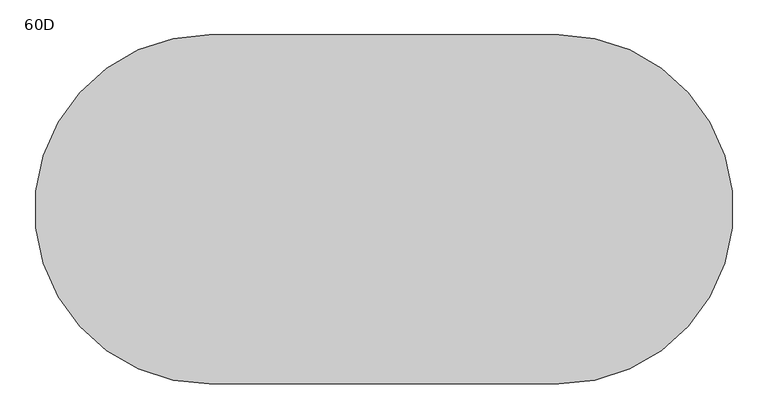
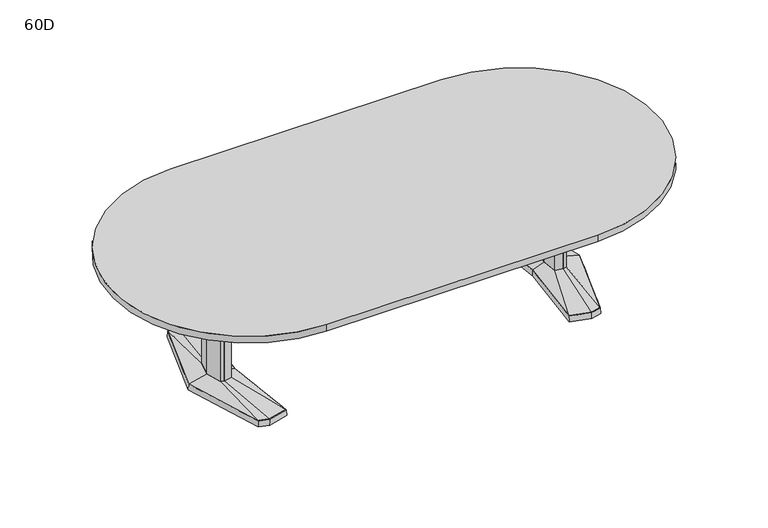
"""IFC4 building model written with IfcOpenShell, lengths in millimetres: furniture geometry, Coalesse_AM_Table_Conference_ETable2_Racetrack_10ft_AluminiumBase : 60D."""

from ifc_helpers import new_model, si_unit, point, frame, frame_2d, origin, place, context, project, spatial, polyline, circle_curve, trimmed, segment, composite_curve, outline, extrude, faceted_brep, source, transform, mapped, element, save
from ifc_brep_helpers import plane_surface, spline_surface, advanced_brep


def furniture_60d_35aef25b(model_context):
    return source(origin(), model_context, "Body", "SolidModel", [
        faceted_brep([(905.8306835, 455.5848221, 38.1), (796.2531277, 426.2263816, 38.1), (837.4163717, 0.0, 38.1), (796.2531277, -426.2263816, 38.1), (905.8306835, -455.5848221, 38.1), (961.9570396, -440.5478297, 38.1), (1099.2684269, 0.0, 38.1), (961.9570396, 440.5478297, 38.1), (905.8306754, 457.2283104, 3.175), (963.2124472, 441.8549756, 3.175), (1100.93125, 0.0, 3.175), (963.2124472, -441.8549756, 3.175), (905.8306754, -457.2283104, 3.175), (794.54375, -427.4118891, 3.175), (835.8214856, 0.0, 3.175), (794.54375, 427.4118891, 3.175), (909.420115, 428.3273875, 3.175), (804.3718228, 402.1057253, 3.175), (812.490518, 377.985069, 3.175), (913.0095466, 401.0699529, 3.175), (963.5691725, 387.524361, 3.175), (962.7631061, 414.0360954, 3.175), (909.420115, -428.3273875, 3.175), (962.7631061, -414.0360954, 3.175), (963.5691725, -387.524361, 3.175), (913.0095466, -401.0699529, 3.175), (812.490518, -377.985069, 3.175), (804.3718228, -402.1057253, 3.175), (1036.0153621, 0.0, 3.175), (1003.7459611, 120.4193755, 3.175), (955.0987222, 133.471665, 3.175), (875.2180526, 119.4176561, 3.175), (864.0868466, 0.0, 3.175), (875.2180526, -119.4176561, 3.175), (955.0987222, -133.471665, 3.175), (1003.7459611, -120.4193755, 3.175), (909.420115, 428.3273875, 0.0), (962.7631061, 414.0360954, 0.0), (963.5691725, 387.524361, 0.0), (913.0095466, 401.0699529, 0.0), (812.490518, 377.985069, 0.0), (804.3718228, 402.1057253, 0.0), (909.420115, -428.3273875, 0.0), (804.3718228, -402.1057253, 0.0), (812.490518, -377.985069, 0.0), (913.0095466, -401.0699529, 0.0), (963.5691725, -387.524361, 0.0), (962.7631061, -414.0360954, 0.0), (1036.0153621, 0.0, 0.0), (1003.7459611, -120.4193755, 0.0), (955.0987222, -133.471665, 0.0), (875.2180526, -119.4176561, 0.0), (864.0868466, 0.0, 0.0), (875.2180526, 119.4176561, 0.0), (955.0987222, 133.471665, 0.0), (1003.7459611, 120.4193755, 0.0)], [[[0, 1, 2, 3, 4, 5, 6, 7]], [[8, 9, 10, 11, 12, 13, 14, 15], [16, 17, 18, 19, 20, 21], [22, 23, 24, 25, 26, 27], [28, 29, 30, 31, 32, 33, 34, 35]], [[7, 9, 8, 0]], [[6, 10, 9, 7]], [[5, 11, 10, 6]], [[4, 12, 11, 5]], [[3, 13, 12, 4]], [[2, 14, 13, 3]], [[1, 15, 14, 2]], [[0, 8, 15, 1]], [[36, 37, 38, 39, 40, 41]], [[42, 43, 44, 45, 46, 47]], [[48, 49, 50, 51, 52, 53, 54, 55]], [[36, 16, 21, 37]], [[37, 21, 20, 38]], [[38, 20, 19, 39]], [[39, 19, 18, 40]], [[40, 18, 17, 41]], [[41, 17, 16, 36]], [[42, 22, 27, 43]], [[43, 27, 26, 44]], [[44, 26, 25, 45]], [[45, 25, 24, 46]], [[46, 24, 23, 47]], [[47, 23, 22, 42]], [[48, 28, 35, 49]], [[49, 35, 34, 50]], [[50, 34, 33, 51]], [[51, 33, 32, 52]], [[52, 32, 31, 53]], [[53, 31, 30, 54]], [[54, 30, 29, 55]], [[55, 29, 28, 48]]]),
        faceted_brep([(996.5710836, 0.0, 698.5), (972.6358546, 89.3188359, 698.5), (955.7824984, 93.8406728, 698.5), (953.3826511, 94.4845635, 698.5), (910.455146, 86.9320037, 698.5), (902.3520056, 0.0, 698.5), (910.455146, -86.9320037, 698.5), (953.3826511, -94.4845635, 698.5), (955.7824984, -93.8406728, 698.5), (972.6358546, -89.3188359, 698.5), (996.5710836, 0.0, 63.5), (972.6358546, -89.3188359, 63.5), (955.7824984, -93.8406728, 63.5), (953.3826511, -94.4845635, 63.5), (910.455146, -86.9320037, 63.5), (902.3520056, 0.0, 63.5), (910.455146, 86.9320037, 63.5), (953.3826511, 94.4845635, 63.5), (955.7824984, 93.8406728, 63.5), (972.6358546, 89.3188359, 63.5)], [[[0, 1, 2, 3, 4, 5, 6, 7, 8, 9]], [[10, 11, 12, 13, 14, 15, 16, 17, 18, 19]], [[9, 11, 10, 0]], [[8, 12, 11, 9]], [[7, 13, 12, 8]], [[6, 14, 13, 7]], [[5, 15, 14, 6]], [[4, 16, 15, 5]], [[3, 17, 16, 4]], [[2, 18, 17, 3]], [[1, 19, 18, 2]], [[0, 10, 19, 1]]]),
        advanced_brep(
        [(953.3826511, 94.4845635, 63.5), (910.455146, 86.9320037, 63.5), (902.3520056, 0.0, 63.5), (910.455146, -86.9320037, 63.5), (953.3826511, -94.4845635, 63.5), (972.6358546, -89.3188359, 63.5), (996.5710836, 0.0, 63.5), (972.6358546, 89.3188359, 63.5), (905.8306835, 455.5848221, 38.1), (961.9570396, 440.5478297, 38.1), (1099.2684269, 0.0, 38.1), (961.9570396, -440.5478297, 38.1), (905.8306835, -455.5848221, 38.1), (796.2531277, -426.2263816, 38.1), (837.4163717, 0.0, 38.1), (796.2531277, 426.2263816, 38.1)],
        [
            (0, 1),
            (1, 2),
            (2, 3),
            (3, 4),
            (4, 5),
            (5, 6),
            (6, 7),
            (7, 0),
            (8, 9),
            (9, 10),
            (10, 11),
            (11, 12),
            (12, 13),
            (13, 14),
            (14, 15),
            (15, 8),
            (8, 0),
            (7, 9),
            (6, 10),
            (5, 11),
            (4, 12),
            (3, 13),
            (2, 14),
            (1, 15),
        ],
        [
            plane_surface(frame((946.4837991, 0.0, 63.5), z_axis=(0.0, 0.0, 1.0), x_axis=(-0.25884244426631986, -0.9659195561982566, 0.0))),
            plane_surface(frame((908.0958125, 0.0, 38.1), z_axis=(0.0, 0.0, -1.0), x_axis=(-0.25884244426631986, -0.9659195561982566, 0.0))),
            spline_surface(1, 1, [[(905.8306835, 455.5848221, 38.1), (961.9570396, 440.5478297, 38.1)], [(953.3826511, 94.4845635, 63.5), (972.6358546, 89.3188359, 63.5)]], [2, 2], [2, 2], [0.0, 1.0], [0.0, 1.0]),
            spline_surface(1, 1, [[(961.9570396, 440.5478297, 38.1), (1099.2684269, 0.0, 38.1)], [(972.6358546, 89.3188359, 63.5), (996.5710836, 0.0, 63.5)]], [2, 2], [2, 2], [0.0, 1.0], [0.0, 1.0]),
            spline_surface(1, 1, [[(1099.2684269, 0.0, 38.1), (961.9570396, -440.5478297, 38.1)], [(996.5710836, 0.0, 63.5), (972.6358546, -89.3188359, 63.5)]], [2, 2], [2, 2], [0.0, 1.0], [0.0, 1.0]),
            spline_surface(1, 1, [[(961.9570396, -440.5478297, 38.1), (905.8306835, -455.5848221, 38.1)], [(972.6358546, -89.3188359, 63.5), (953.3826511, -94.4845635, 63.5)]], [2, 2], [2, 2], [0.0, 1.0], [0.0, 1.0]),
            spline_surface(1, 1, [[(905.8306835, -455.5848221, 38.1), (796.2531277, -426.2263816, 38.1)], [(953.3826511, -94.4845635, 63.5), (910.455146, -86.9320037, 63.5)]], [2, 2], [2, 2], [0.0, 1.0], [0.0, 1.0]),
            spline_surface(1, 1, [[(796.2531277, -426.2263816, 38.1), (837.4163717, 0.0, 38.1)], [(910.455146, -86.9320037, 63.5), (902.3520056, 0.0, 63.5)]], [2, 2], [2, 2], [0.0, 1.0], [0.0, 1.0]),
            spline_surface(1, 1, [[(837.4163717, 0.0, 38.1), (796.2531277, 426.2263816, 38.1)], [(902.3520056, 0.0, 63.5), (910.455146, 86.9320037, 63.5)]], [2, 2], [2, 2], [0.0, 1.0], [0.0, 1.0]),
            spline_surface(1, 1, [[(796.2531277, 426.2263816, 38.1), (905.8306835, 455.5848221, 38.1)], [(910.455146, 86.9320037, 63.5), (953.3826511, 94.4845635, 63.5)]], [2, 2], [2, 2], [0.0, 1.0], [0.0, 1.0]),
        ],
        [
            (0, [[1, 2, 3, 4, 5, 6, 7, 8]]),
            (1, [[9, 10, 11, 12, 13, 14, 15, 16]]),
            (2, [[17, -8, 18, -9]]),
            (3, [[-18, -7, 19, -10]]),
            (4, [[-19, -6, 20, -11]]),
            (5, [[-20, -5, 21, -12]]),
            (6, [[-21, -4, 22, -13]]),
            (7, [[-22, -3, 23, -14]]),
            (8, [[-23, -2, 24, -15]]),
            (9, [[-24, -1, -17, -16]]),
        ],
    ),
        faceted_brep([(-905.8306835, 455.5848221, 38.1), (-961.9570396, 440.5478297, 38.1), (-1099.2684269, 0.0, 38.1), (-961.9570396, -440.5478297, 38.1), (-905.8306835, -455.5848221, 38.1), (-796.2531277, -426.2263816, 38.1), (-837.4163717, 0.0, 38.1), (-796.2531277, 426.2263816, 38.1), (-905.8306754, 457.2283104, 3.175), (-794.54375, 427.4118891, 3.175), (-835.8214856, 0.0, 3.175), (-794.54375, -427.4118891, 3.175), (-905.8306754, -457.2283104, 3.175), (-963.2124472, -441.8549756, 3.175), (-1100.93125, 0.0, 3.175), (-963.2124472, 441.8549756, 3.175), (-909.420115, 428.3273875, 3.175), (-962.7631061, 414.0360954, 3.175), (-963.5691725, 387.524361, 3.175), (-913.0095466, 401.0699529, 3.175), (-812.490518, 377.985069, 3.175), (-804.3718228, 402.1057253, 3.175), (-909.420115, -428.3273875, 3.175), (-804.3718228, -402.1057253, 3.175), (-812.490518, -377.985069, 3.175), (-913.0095466, -401.0699529, 3.175), (-963.5691725, -387.524361, 3.175), (-962.7631061, -414.0360954, 3.175), (-1036.0153621, 0.0, 3.175), (-1003.7459611, -120.4193755, 3.175), (-955.0987222, -133.471665, 3.175), (-875.2180526, -119.4176561, 3.175), (-864.0868466, 0.0, 3.175), (-875.2180526, 119.4176561, 3.175), (-955.0987222, 133.471665, 3.175), (-1003.7459611, 120.4193755, 3.175), (-909.420115, 428.3273875, 0.0), (-804.3718228, 402.1057253, 0.0), (-812.490518, 377.985069, 0.0), (-913.0095466, 401.0699529, 0.0), (-963.5691725, 387.524361, 0.0), (-962.7631061, 414.0360954, 0.0), (-909.420115, -428.3273875, 0.0), (-962.7631061, -414.0360954, 0.0), (-963.5691725, -387.524361, 0.0), (-913.0095466, -401.0699529, 0.0), (-812.490518, -377.985069, 0.0), (-804.3718228, -402.1057253, 0.0), (-1036.0153621, 0.0, 0.0), (-1003.7459611, 120.4193755, 0.0), (-955.0987222, 133.471665, 0.0), (-875.2180526, 119.4176561, 0.0), (-864.0868466, 0.0, 0.0), (-875.2180526, -119.4176561, 0.0), (-955.0987222, -133.471665, 0.0), (-1003.7459611, -120.4193755, 0.0)], [[[0, 1, 2, 3, 4, 5, 6, 7]], [[8, 9, 10, 11, 12, 13, 14, 15], [16, 17, 18, 19, 20, 21], [22, 23, 24, 25, 26, 27], [28, 29, 30, 31, 32, 33, 34, 35]], [[1, 0, 8, 15]], [[2, 1, 15, 14]], [[3, 2, 14, 13]], [[4, 3, 13, 12]], [[5, 4, 12, 11]], [[6, 5, 11, 10]], [[7, 6, 10, 9]], [[0, 7, 9, 8]], [[36, 37, 38, 39, 40, 41]], [[42, 43, 44, 45, 46, 47]], [[48, 49, 50, 51, 52, 53, 54, 55]], [[36, 41, 17, 16]], [[41, 40, 18, 17]], [[40, 39, 19, 18]], [[39, 38, 20, 19]], [[38, 37, 21, 20]], [[37, 36, 16, 21]], [[42, 47, 23, 22]], [[47, 46, 24, 23]], [[46, 45, 25, 24]], [[45, 44, 26, 25]], [[44, 43, 27, 26]], [[43, 42, 22, 27]], [[48, 55, 29, 28]], [[55, 54, 30, 29]], [[54, 53, 31, 30]], [[53, 52, 32, 31]], [[52, 51, 33, 32]], [[51, 50, 34, 33]], [[50, 49, 35, 34]], [[49, 48, 28, 35]]]),
        faceted_brep([(-996.5710836, 0.0, 698.5), (-972.6358546, -89.3188359, 698.5), (-955.7824984, -93.8406728, 698.5), (-953.3826511, -94.4845635, 698.5), (-910.455146, -86.9320037, 698.5), (-902.3520056, 0.0, 698.5), (-910.455146, 86.9320037, 698.5), (-953.3826511, 94.4845635, 698.5), (-955.7824984, 93.8406728, 698.5), (-972.6358546, 89.3188359, 698.5), (-996.5710836, 0.0, 63.5), (-972.6358546, 89.3188359, 63.5), (-955.7824984, 93.8406728, 63.5), (-953.3826511, 94.4845635, 63.5), (-910.455146, 86.9320037, 63.5), (-902.3520056, 0.0, 63.5), (-910.455146, -86.9320037, 63.5), (-953.3826511, -94.4845635, 63.5), (-955.7824984, -93.8406728, 63.5), (-972.6358546, -89.3188359, 63.5)], [[[0, 1, 2, 3, 4, 5, 6, 7, 8, 9]], [[10, 11, 12, 13, 14, 15, 16, 17, 18, 19]], [[1, 0, 10, 19]], [[2, 1, 19, 18]], [[3, 2, 18, 17]], [[4, 3, 17, 16]], [[5, 4, 16, 15]], [[6, 5, 15, 14]], [[7, 6, 14, 13]], [[8, 7, 13, 12]], [[9, 8, 12, 11]], [[0, 9, 11, 10]]]),
        advanced_brep(
        [(-953.3826511, 94.4845635, 63.5), (-972.6358546, 89.3188359, 63.5), (-996.5710836, 0.0, 63.5), (-972.6358546, -89.3188359, 63.5), (-953.3826511, -94.4845635, 63.5), (-910.455146, -86.9320037, 63.5), (-902.3520056, 0.0, 63.5), (-910.455146, 86.9320037, 63.5), (-905.8306835, 455.5848221, 38.1), (-796.2531277, 426.2263816, 38.1), (-837.4163717, 0.0, 38.1), (-796.2531277, -426.2263816, 38.1), (-905.8306835, -455.5848221, 38.1), (-961.9570396, -440.5478297, 38.1), (-1099.2684269, 0.0, 38.1), (-961.9570396, 440.5478297, 38.1)],
        [
            (0, 1),
            (1, 2),
            (2, 3),
            (3, 4),
            (4, 5),
            (5, 6),
            (6, 7),
            (7, 0),
            (8, 9),
            (9, 10),
            (10, 11),
            (11, 12),
            (12, 13),
            (13, 14),
            (14, 15),
            (15, 8),
            (15, 1),
            (0, 8),
            (14, 2),
            (13, 3),
            (12, 4),
            (11, 5),
            (10, 6),
            (9, 7),
        ],
        [
            plane_surface(frame((-946.4837991, 0.0, 63.5), z_axis=(0.0, 0.0, 1.0), x_axis=(0.25884244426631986, -0.9659195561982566, 0.0))),
            plane_surface(frame((-908.0958125, 0.0, 38.1), z_axis=(0.0, 0.0, -1.0), x_axis=(0.25884244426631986, -0.9659195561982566, 0.0))),
            spline_surface(1, 1, [[(-905.8306835, 455.5848221, 38.1), (-953.3826511, 94.4845635, 63.5)], [(-961.9570396, 440.5478297, 38.1), (-972.6358546, 89.3188359, 63.5)]], [2, 2], [2, 2], [0.0, 1.0], [0.0, 1.0]),
            spline_surface(1, 1, [[(-961.9570396, 440.5478297, 38.1), (-972.6358546, 89.3188359, 63.5)], [(-1099.2684269, 0.0, 38.1), (-996.5710836, 0.0, 63.5)]], [2, 2], [2, 2], [0.0, 1.0], [0.0, 1.0]),
            spline_surface(1, 1, [[(-1099.2684269, 0.0, 38.1), (-996.5710836, 0.0, 63.5)], [(-961.9570396, -440.5478297, 38.1), (-972.6358546, -89.3188359, 63.5)]], [2, 2], [2, 2], [0.0, 1.0], [0.0, 1.0]),
            spline_surface(1, 1, [[(-961.9570396, -440.5478297, 38.1), (-972.6358546, -89.3188359, 63.5)], [(-905.8306835, -455.5848221, 38.1), (-953.3826511, -94.4845635, 63.5)]], [2, 2], [2, 2], [0.0, 1.0], [0.0, 1.0]),
            spline_surface(1, 1, [[(-905.8306835, -455.5848221, 38.1), (-953.3826511, -94.4845635, 63.5)], [(-796.2531277, -426.2263816, 38.1), (-910.455146, -86.9320037, 63.5)]], [2, 2], [2, 2], [0.0, 1.0], [0.0, 1.0]),
            spline_surface(1, 1, [[(-796.2531277, -426.2263816, 38.1), (-910.455146, -86.9320037, 63.5)], [(-837.4163717, 0.0, 38.1), (-902.3520056, 0.0, 63.5)]], [2, 2], [2, 2], [0.0, 1.0], [0.0, 1.0]),
            spline_surface(1, 1, [[(-837.4163717, 0.0, 38.1), (-902.3520056, 0.0, 63.5)], [(-796.2531277, 426.2263816, 38.1), (-910.455146, 86.9320037, 63.5)]], [2, 2], [2, 2], [0.0, 1.0], [0.0, 1.0]),
            spline_surface(1, 1, [[(-796.2531277, 426.2263816, 38.1), (-910.455146, 86.9320037, 63.5)], [(-905.8306835, 455.5848221, 38.1), (-953.3826511, 94.4845635, 63.5)]], [2, 2], [2, 2], [0.0, 1.0], [0.0, 1.0]),
        ],
        [
            (0, [[1, 2, 3, 4, 5, 6, 7, 8]]),
            (1, [[9, 10, 11, 12, 13, 14, 15, 16]]),
            (2, [[-16, 17, -1, 18]]),
            (3, [[-15, 19, -2, -17]]),
            (4, [[-14, 20, -3, -19]]),
            (5, [[-13, 21, -4, -20]]),
            (6, [[-12, 22, -5, -21]]),
            (7, [[-11, 23, -6, -22]]),
            (8, [[-10, 24, -7, -23]]),
            (9, [[-9, -18, -8, -24]]),
        ],
    ),
        extrude(outline(polyline([(96.8375, 698.5), (103.1875, 698.5), (103.1875, 476.25), (-103.1875, 476.25), (-103.1875, 698.5), (-96.8375, 698.5), (-96.8375, 482.6), (96.8375, 482.6), (96.8375, 698.5)])), frame((-902.49375, 0.0, 0.0), z_axis=(1.0, 0.0, 0.0), x_axis=(0.0, 1.0, 0.0)), (0.0, 0.0, 1.0), 1804.9875),
        extrude(outline(composite_curve([segment(trimmed(circle_curve(frame_2d((-762.0, 0.0)), 762.0), [point((-762.0, -762.0))], [point((-762.0, 762.0))], False, "CARTESIAN"), True, "CONTINUOUS"), segment(polyline([(-762.0, 762.0), (762.0, 762.0)]), True, "CONTINUOUS"), segment(trimmed(circle_curve(frame_2d((762.0, 0.0)), 762.0), [point((762.0, 762.0))], [point((762.0, -762.0))], False, "CARTESIAN"), True, "CONTINUOUS"), segment(polyline([(762.0, -762.0), (-762.0, -762.0)]), True, "CONTINUOUS")], self_intersect=False)), frame((0.0, 0.0, 698.5), z_axis=(0.0, 0.0, 1.0), x_axis=(1.0, 0.0, 0.0)), (0.0, 0.0, 1.0), 38.1),
    ])


if __name__ == "__main__":
    model = new_model("IFC4")
    model_context = context("Model", 3, world=origin())
    ifc_project = project(units=[si_unit("LENGTHUNIT", "METRE", prefix="MILLI")], contexts=[model_context])
    site = spatial("IfcSite", under=ifc_project)
    building = spatial("IfcBuilding", under=site)
    placement = place(None, origin())
    furniture_60d_shape = furniture_60d_35aef25b(model_context)
    element("IfcFurniture", 1, ObjectType="Coalesse_AM_Table_Conference_ETable2_Racetrack_10ft_AluminiumBase : 60D", at=placement, inside=building, context=model_context, shape_type="MappedRepresentation", body=[
        mapped(furniture_60d_shape, transform((0.0, 0.0, 0.0), x_axis=(1.0, 0.0, 0.0), y_axis=(0.0, 1.0, 0.0), z_axis=(0.0, 0.0, 1.0))),
    ])
    save(model, "model.ifc")
